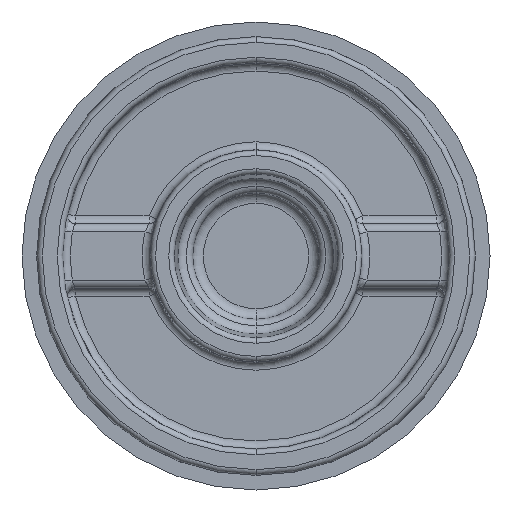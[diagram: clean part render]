
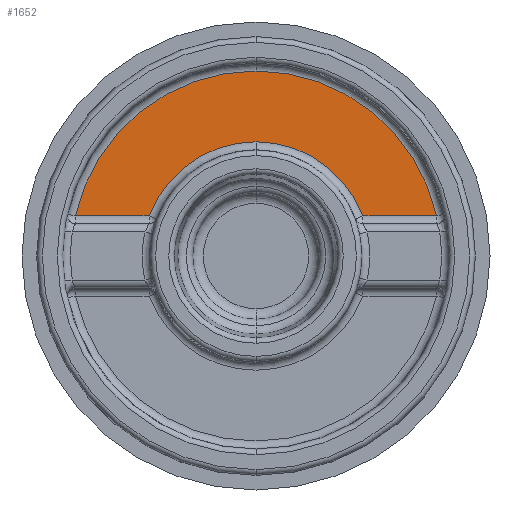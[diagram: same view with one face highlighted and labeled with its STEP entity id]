
A CAD part, front view. The second image highlights one B-rep face of the part: STEP entity #1652.
In plain terms, the highlighted planar face has unit normal (0, -1, 0).
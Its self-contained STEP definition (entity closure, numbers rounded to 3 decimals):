
#1 = DIRECTION ( 'NONE',  ( 1., 0., 0. ) ) ;
#39 = CARTESIAN_POINT ( 'NONE',  ( -19.063, -9.5, 7.531 ) ) ;
#46 = CARTESIAN_POINT ( 'NONE',  ( 36.25, -9.5, 0. ) ) ;
#156 = VERTEX_POINT ( 'NONE', #2546 ) ;
#181 = LINE ( 'NONE', #39, #715 ) ;
#275 = EDGE_CURVE ( 'NONE', #1661, #1288, #2544, .T. ) ;
#290 = CARTESIAN_POINT ( 'NONE',  ( -33.951, -9.5, 7.531 ) ) ;
#312 = CARTESIAN_POINT ( 'NONE',  ( 0., -9.5, 34.776 ) ) ;
#319 = CARTESIAN_POINT ( 'NONE',  ( 33.951, -9.5, 7.531 ) ) ;
#397 = EDGE_LOOP ( 'NONE', ( #2863, #2802, #2511, #1908, #2343, #868 ) ) ;
#454 = EDGE_CURVE ( 'NONE', #2920, #156, #181, .T. ) ;
#567 = DIRECTION ( 'NONE',  ( 0., -1., 0. ) ) ;
#607 = CIRCLE ( 'NONE', #2209, 21.474 ) ;
#619 = EDGE_CURVE ( 'NONE', #1288, #747, #1426, .T. ) ;
#692 = DIRECTION ( 'NONE',  ( 0., 0., 1. ) ) ;
#714 = VERTEX_POINT ( 'NONE', #312 ) ;
#715 = VECTOR ( 'NONE', #2610, 1000. ) ;
#746 = PLANE ( 'NONE',  #2942 ) ;
#747 = VERTEX_POINT ( 'NONE', #319 ) ;
#790 = VECTOR ( 'NONE', #1, 1000. ) ;
#811 = AXIS2_PLACEMENT_3D ( 'NONE', #838, #2719, #1098 ) ;
#838 = CARTESIAN_POINT ( 'NONE',  ( 0., -9.5, 0. ) ) ;
#868 = ORIENTED_EDGE ( 'NONE', *, *, #2997, .T. ) ;
#1012 = CARTESIAN_POINT ( 'NONE',  ( 0., -9.5, 21.474 ) ) ;
#1033 = DIRECTION ( 'NONE',  ( 0., 1., 0. ) ) ;
#1098 = DIRECTION ( 'NONE',  ( 0., 0., 1. ) ) ;
#1169 = CARTESIAN_POINT ( 'NONE',  ( 0., -9.5, 0. ) ) ;
#1288 = VERTEX_POINT ( 'NONE', #2380 ) ;
#1426 = LINE ( 'NONE', #2871, #790 ) ;
#1652 = ADVANCED_FACE ( 'NONE', ( #2916 ), #746, .F. ) ;
#1661 = VERTEX_POINT ( 'NONE', #1012 ) ;
#1871 = DIRECTION ( 'NONE',  ( 0., -1., 0. ) ) ;
#1908 = ORIENTED_EDGE ( 'NONE', *, *, #619, .T. ) ;
#1941 = AXIS2_PLACEMENT_3D ( 'NONE', #1169, #1871, #692 ) ;
#2008 = CARTESIAN_POINT ( 'NONE',  ( 0., -9.5, 0. ) ) ;
#2170 = DIRECTION ( 'NONE',  ( 0., 0., 1. ) ) ;
#2175 = CARTESIAN_POINT ( 'NONE',  ( 0., -9.5, 0. ) ) ;
#2187 = DIRECTION ( 'NONE',  ( 0., 1., 0. ) ) ;
#2202 = DIRECTION ( 'NONE',  ( 0., 0., 1. ) ) ;
#2209 = AXIS2_PLACEMENT_3D ( 'NONE', #2175, #1033, #2202 ) ;
#2238 = DIRECTION ( 'NONE',  ( 0., 0., 1. ) ) ;
#2343 = ORIENTED_EDGE ( 'NONE', *, *, #2405, .T. ) ;
#2380 = CARTESIAN_POINT ( 'NONE',  ( 20.11, -9.5, 7.531 ) ) ;
#2405 = EDGE_CURVE ( 'NONE', #747, #714, #2425, .T. ) ;
#2425 = CIRCLE ( 'NONE', #1941, 34.776 ) ;
#2511 = ORIENTED_EDGE ( 'NONE', *, *, #275, .T. ) ;
#2544 = CIRCLE ( 'NONE', #811, 21.474 ) ;
#2546 = CARTESIAN_POINT ( 'NONE',  ( -20.11, -9.5, 7.531 ) ) ;
#2610 = DIRECTION ( 'NONE',  ( 1., 0., 0. ) ) ;
#2719 = DIRECTION ( 'NONE',  ( 0., 1., 0. ) ) ;
#2802 = ORIENTED_EDGE ( 'NONE', *, *, #2869, .T. ) ;
#2835 = AXIS2_PLACEMENT_3D ( 'NONE', #2008, #567, #2238 ) ;
#2863 = ORIENTED_EDGE ( 'NONE', *, *, #454, .T. ) ;
#2869 = EDGE_CURVE ( 'NONE', #156, #1661, #607, .T. ) ;
#2871 = CARTESIAN_POINT ( 'NONE',  ( 35.742, -9.5, 7.531 ) ) ;
#2916 = FACE_OUTER_BOUND ( 'NONE', #397, .T. ) ;
#2920 = VERTEX_POINT ( 'NONE', #290 ) ;
#2942 = AXIS2_PLACEMENT_3D ( 'NONE', #46, #2187, #2170 ) ;
#2997 = EDGE_CURVE ( 'NONE', #714, #2920, #3055, .T. ) ;
#3055 = CIRCLE ( 'NONE', #2835, 34.776 ) ;
